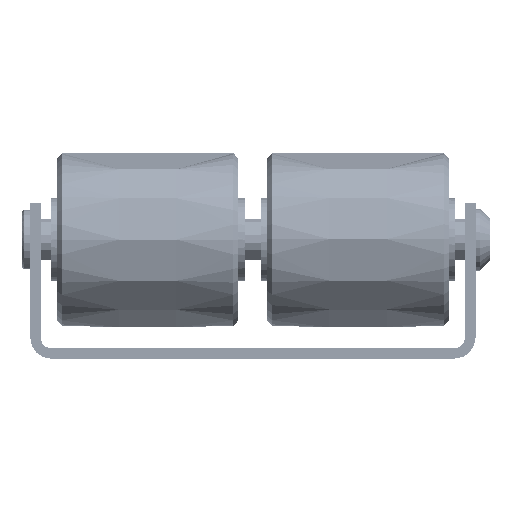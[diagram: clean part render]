
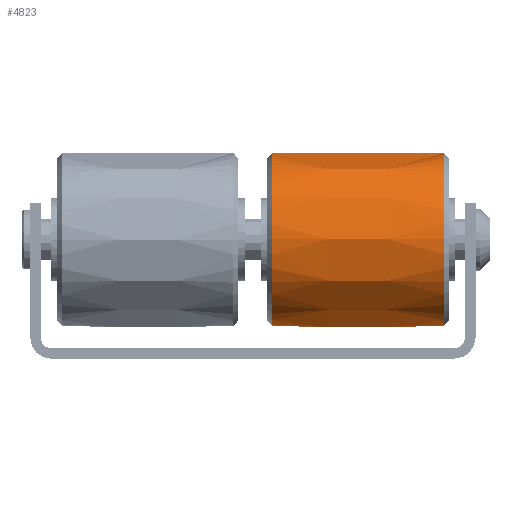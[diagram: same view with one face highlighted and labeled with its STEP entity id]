
A CAD part, front view. The second image highlights one B-rep face of the part: STEP entity #4823.
In plain terms, the highlighted free-form (B-spline) face has degree [3, 3] with [4, 7] control points.
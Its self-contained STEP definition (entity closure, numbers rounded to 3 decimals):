
#4823 = ADVANCED_FACE( '', ( #8365, #8366 ), #8367, .T. );
#8365 = FACE_OUTER_BOUND( '', #11041, .T. );
#8366 = FACE_OUTER_BOUND( '', #11042, .T. );
#8367 = ( BOUNDED_SURFACE(  )B_SPLINE_SURFACE( 3, 3, ( ( #11045, #11046, #11047, #11048, #11049, #11050, #11051 ), ( #11052, #11053, #11054, #11055, #11056, #11057, #11058 ), ( #11059, #11060, #11061, #11062, #11063, #11064, #11065 ), ( #11066, #11067, #11068, #11069, #11070, #11071, #11072 ) ), .UNSPECIFIED., .F., .T., .F. )B_SPLINE_SURFACE_WITH_KNOTS( ( 4, 4 ), ( 4, 3, 4 ), ( 0., 6.283 ), ( -0.043, 0., 0.043 ), .UNSPECIFIED. )GEOMETRIC_REPRESENTATION_ITEM(  )RATIONAL_B_SPLINE_SURFACE( ( ( 1., 0.333, 0.333, 1., 0.333, 0.333, 1. ), ( 0.999, 0.333, 0.333, 0.999, 0.333, 0.333, 0.999 ), ( 0.999, 0.333, 0.333, 0.999, 0.333, 0.333, 0.999 ), ( 1., 0.333, 0.333, 1., 0.333, 0.333, 1. ) ) )REPRESENTATION_ITEM( '' )SURFACE(  ) );
#11041 = EDGE_LOOP( '', ( #15902 ) );
#11042 = EDGE_LOOP( '', ( #15903 ) );
#11045 = CARTESIAN_POINT( '', ( 0., -8.272, -8.32 ) );
#11046 = CARTESIAN_POINT( '', ( 16.64, -8.272, -8.32 ) );
#11047 = CARTESIAN_POINT( '', ( 16.64, -8.272, 8.32 ) );
#11048 = CARTESIAN_POINT( '', ( 0., -8.272, 8.32 ) );
#11049 = CARTESIAN_POINT( '', ( -16.64, -8.272, 8.32 ) );
#11050 = CARTESIAN_POINT( '', ( -16.64, -8.272, -8.32 ) );
#11051 = CARTESIAN_POINT( '', ( 0., -8.272, -8.32 ) );
#11052 = CARTESIAN_POINT( '', ( 0., -2.759, -8.559 ) );
#11053 = CARTESIAN_POINT( '', ( 17.118, -2.759, -8.559 ) );
#11054 = CARTESIAN_POINT( '', ( 17.118, -2.759, 8.559 ) );
#11055 = CARTESIAN_POINT( '', ( 0., -2.759, 8.559 ) );
#11056 = CARTESIAN_POINT( '', ( -17.118, -2.759, 8.559 ) );
#11057 = CARTESIAN_POINT( '', ( -17.118, -2.759, -8.559 ) );
#11058 = CARTESIAN_POINT( '', ( 0., -2.759, -8.559 ) );
#11059 = CARTESIAN_POINT( '', ( 0., 2.759, -8.56 ) );
#11060 = CARTESIAN_POINT( '', ( 17.12, 2.759, -8.56 ) );
#11061 = CARTESIAN_POINT( '', ( 17.12, 2.759, 8.56 ) );
#11062 = CARTESIAN_POINT( '', ( 0., 2.759, 8.56 ) );
#11063 = CARTESIAN_POINT( '', ( -17.12, 2.759, 8.56 ) );
#11064 = CARTESIAN_POINT( '', ( -17.12, 2.759, -8.56 ) );
#11065 = CARTESIAN_POINT( '', ( 0., 2.759, -8.56 ) );
#11066 = CARTESIAN_POINT( '', ( 0., 8.271, -8.323 ) );
#11067 = CARTESIAN_POINT( '', ( 16.645, 8.271, -8.323 ) );
#11068 = CARTESIAN_POINT( '', ( 16.645, 8.271, 8.323 ) );
#11069 = CARTESIAN_POINT( '', ( 0., 8.271, 8.323 ) );
#11070 = CARTESIAN_POINT( '', ( -16.645, 8.271, 8.323 ) );
#11071 = CARTESIAN_POINT( '', ( -16.645, 8.271, -8.323 ) );
#11072 = CARTESIAN_POINT( '', ( 0., 8.271, -8.323 ) );
#15902 = ORIENTED_EDGE( '', *, *, #17062, .T. );
#15903 = ORIENTED_EDGE( '', *, *, #17800, .T. );
#17062 = EDGE_CURVE( '', #19647, #19647, #19648, .T. );
#17800 = EDGE_CURVE( '', #20730, #20730, #20731, .T. );
#19647 = VERTEX_POINT( '', #22890 );
#19648 = CIRCLE( '', #22891, 8.323 );
#20730 = VERTEX_POINT( '', #24155 );
#20731 = CIRCLE( '', #24156, 8.32 );
#22890 = CARTESIAN_POINT( '', ( 0., 8.271, -8.323 ) );
#22891 = AXIS2_PLACEMENT_3D( '', #26043, #26044, #26045 );
#24155 = CARTESIAN_POINT( '', ( 0., -8.272, 8.32 ) );
#24156 = AXIS2_PLACEMENT_3D( '', #27173, #27174, #27175 );
#26043 = CARTESIAN_POINT( '', ( 0., 8.271, 0. ) );
#26044 = DIRECTION( '', ( 0., -1., 0. ) );
#26045 = DIRECTION( '', ( 0., 0., -1. ) );
#27173 = CARTESIAN_POINT( '', ( 0., -8.272, 0. ) );
#27174 = DIRECTION( '', ( 0., 1., 0. ) );
#27175 = DIRECTION( '', ( 0., 0., 1. ) );
